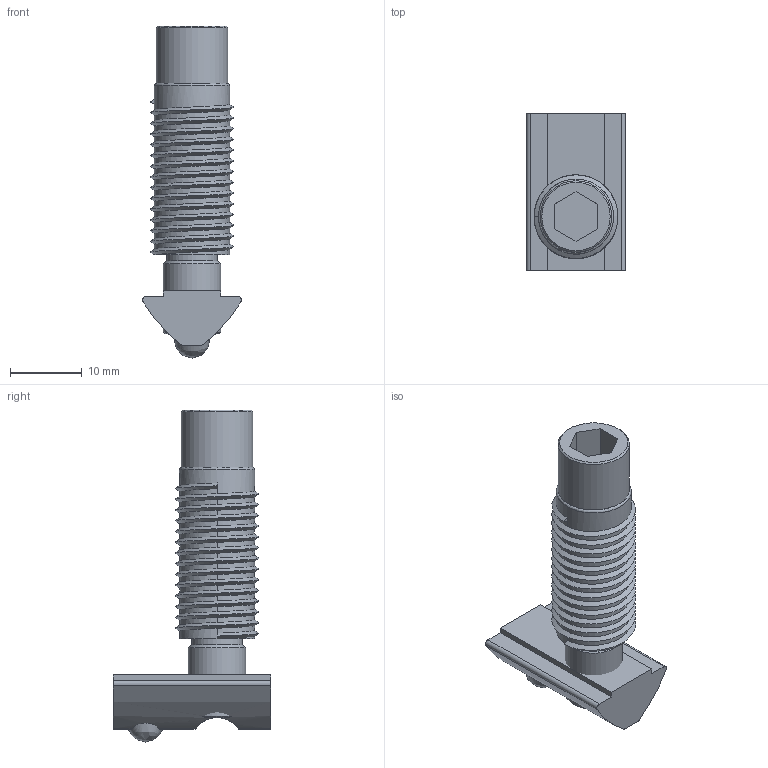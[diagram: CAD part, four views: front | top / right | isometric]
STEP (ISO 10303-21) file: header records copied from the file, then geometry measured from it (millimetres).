
FILE_DESCRIPTION (( 'STEP AP214' ), '1' );
FILE_NAME ('10118-01-0000-00_einschraubverbindersatz_24mm.STEP', '2023-10-19T13:36:38', ( '' ), ( '' ), 'SwSTEP 2.0', 'SolidWorks 2022', '' );
FILE_SCHEMA (( 'AUTOMOTIVE_DESIGN' ));
Length unit declared in the file: millimetre
Products named in the file (1): 10118-01-0000-00_einschraubverbindersatz_24mm
Bounding box: 13.8 x 22 x 46.4 mm (x, y, z)
Volume: 4433.9 mm3; surface area: 4156.6 mm2
Topology: 3 solids, 3 shells, 74 faces, 189 edges, 121 vertices
Faces by surface type: plane 36, cylinder 30, bspline 5, cone 3
Full cylindrical faces by diameter (mm): 6.647 x1, 7.1 x1, 8 x2, 10 x1, 10.5 x15
Entity records: 6197 total; most frequent: CARTESIAN_POINT 4185, ORIENTED_EDGE 262, DIRECTION 256, EDGE_CURVE 131, VERTEX_POINT 89, AXIS2_PLACEMENT_3D 88, VECTOR 80, LINE 80
